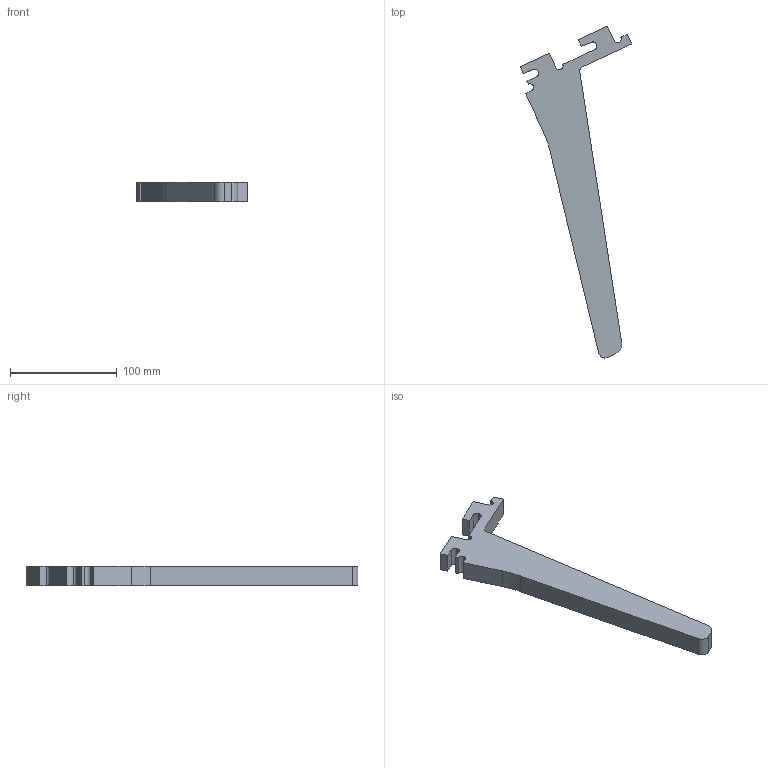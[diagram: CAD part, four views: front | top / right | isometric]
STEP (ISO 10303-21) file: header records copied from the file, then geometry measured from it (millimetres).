
FILE_DESCRIPTION (( 'STEP AP214' ), '1' );
FILE_NAME ('pied-de-tarouret-partie-femelle.STEP', '2018-03-29T09:42:53', ( '' ), ( '' ), 'SwSTEP 2.0', 'SolidWorks 2014', '' );
FILE_SCHEMA (( 'AUTOMOTIVE_DESIGN' ));
Length unit declared in the file: millimetre
Products named in the file (1): pied-de-tarouret-partie-femelle
Bounding box: 104.59 x 310.53 x 18 mm (x, y, z)
Volume: 165791.6 mm3; surface area: 39795.1 mm2
Topology: 1 solids, 1 shells, 49 faces, 136 edges, 90 vertices
Faces by surface type: plane 29, cylinder 20
Entity records: 1608 total; most frequent: DIRECTION 276, CARTESIAN_POINT 276, ORIENTED_EDGE 272, EDGE_CURVE 136, LINE 96, VECTOR 96, AXIS2_PLACEMENT_3D 90, VERTEX_POINT 90
